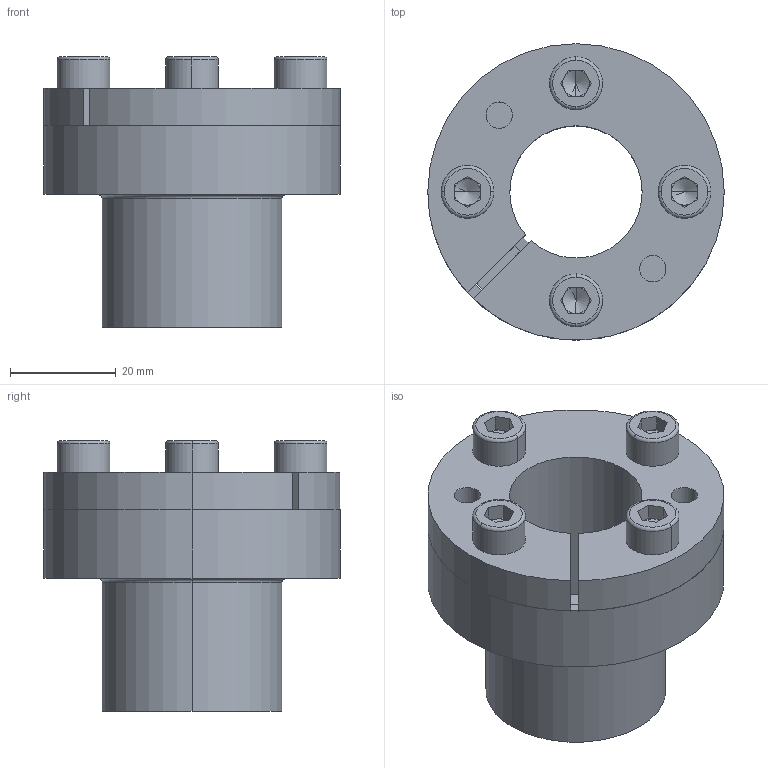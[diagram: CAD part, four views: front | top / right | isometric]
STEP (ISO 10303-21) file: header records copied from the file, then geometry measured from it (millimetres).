
FILE_DESCRIPTION (( 'STEP AP214' ), '1' );
FILE_NAME ('CONEX-B-25x34.step', '2013-04-04T12:41:39', ( 'Pc' ), ( '' ), 'SwSTEP 2.0', 'SolidWorks 2013', '' );
FILE_SCHEMA (( 'AUTOMOTIVE_DESIGN' ));
Length unit declared in the file: millimetre
Products named in the file (1): CONEX-B-25x34
Bounding box: 56 x 56 x 51.11 mm (x, y, z)
Volume: 43612.3 mm3; surface area: 29981.5 mm2
Topology: 7 solids, 7 shells, 174 faces, 414 edges, 250 vertices
Faces by surface type: plane 72, cylinder 52, torus 24, cone 22, bspline 4
Entity records: 7132 total; most frequent: CARTESIAN_POINT 979, DIRECTION 942, ORIENTED_EDGE 812, EDGE_CURVE 406, AXIS2_PLACEMENT_3D 379, VERTEX_POINT 250, CIRCLE 208, EDGE_LOOP 200
